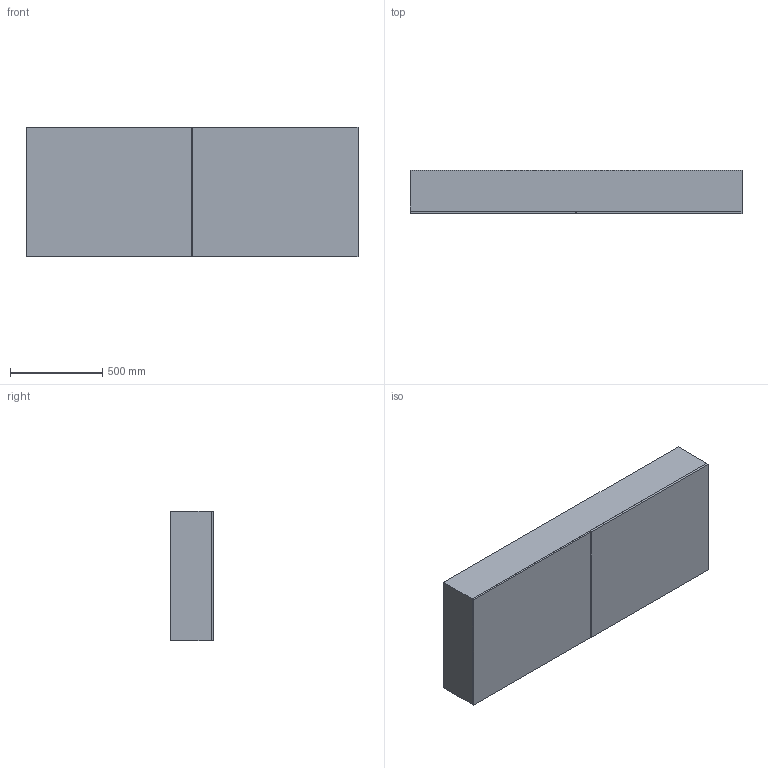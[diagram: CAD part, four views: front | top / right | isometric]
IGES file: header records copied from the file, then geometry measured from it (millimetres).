
Global section: file name: \\Archi-NAS\Comune\X GIOVANNI\SPECCHI\MIRR BOX.igs; native system: Rhinoceros ( Feb 23 2021 ); preprocessor: Trout Lake IGES 012 Feb 23 2021; date: 230608.082227; units: millimetre
Bounding box: 1800 x 232 x 700 mm (x, y, z)
Surface area: 9099536 mm2 (no closed solid volume)
Topology: 0 solids, 0 shells, 62 faces, 256 edges, 256 vertices
Faces by surface type: bspline 62
